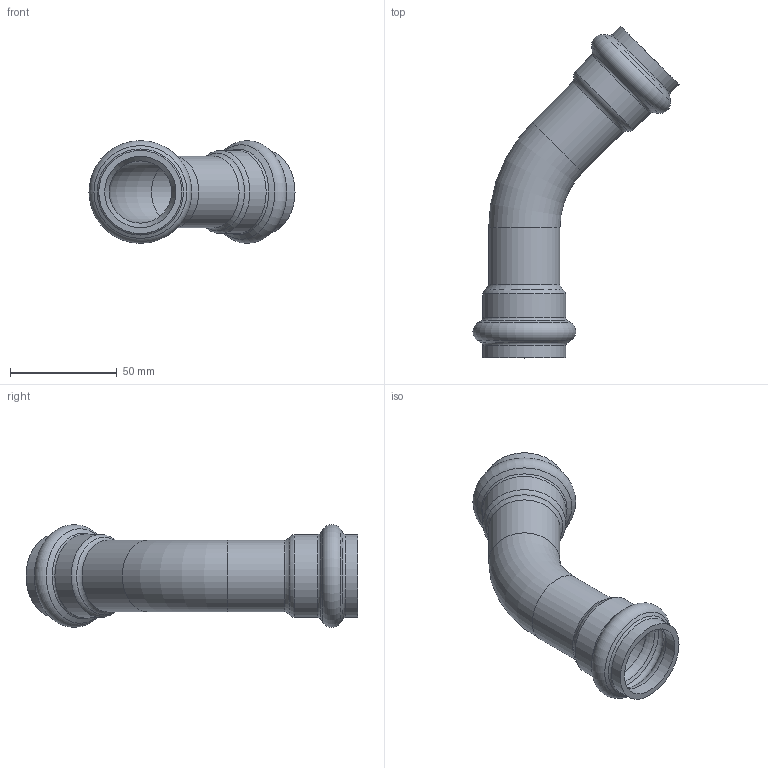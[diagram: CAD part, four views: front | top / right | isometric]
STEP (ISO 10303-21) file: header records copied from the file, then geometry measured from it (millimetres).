
FILE_DESCRIPTION(/* description */ ('VIC 45 DEG ELBOW STYLE P591 (P X P)','CAx-IF Rec.Pracs.---Representation and Presentation of Product Manufacturing Information (PMI)---4.0---2014-10-13'),/* implementation_level */ '2;1');
FILE_NAME(/* name */ 'C:\Users\Vjadhav\AppData\Roaming\Autodesk\ApplicationPlugins\Back Up\Victaulic_SS-Vic-Press-TP 304_Elbow 45 Deg_Style P591 (VP)\Victaulic_SS-Vic-Press-TP 304_Elbow 45 Deg_Style P591 (VP)_1 (25).stp',/* time_stamp */ '2020-08-12T16:12:55+06:00',/* author */ ('cgray'),/* organization */ ('Victaulic'),/* preprocessor_version */ 'ST-DEVELOPER v17.2',/* originating_system */ 'Autodesk Inventor 2019',/* authorisation */ '');
FILE_SCHEMA (('AP242_MANAGED_MODEL_BASED_3D_ENGINEERING_MIM_LF { 1 0 10303 442 1 1 4 }'));
Length unit declared in the file: inch
Products named in the file (1): P591-01.0
Bounding box: 96.58 x 155.56 x 48.16 mm (x, y, z)
Volume: 44590.7 mm3; surface area: 37807.2 mm2
Topology: 1 solids, 1 shells, 42 faces, 150 edges, 110 vertices
Faces by surface type: torus 18, cylinder 12, cone 10, plane 2
Full cylindrical faces by diameter (mm): 29.185 x2, 33.401 x6, 38.938 x4
Entity records: 1920 total; most frequent: DIRECTION 390, CARTESIAN_POINT 320, ORIENTED_EDGE 300, AXIS2_PLACEMENT_3D 184, EDGE_CURVE 150, CIRCLE 128, VERTEX_POINT 110, EDGE_LOOP 44
